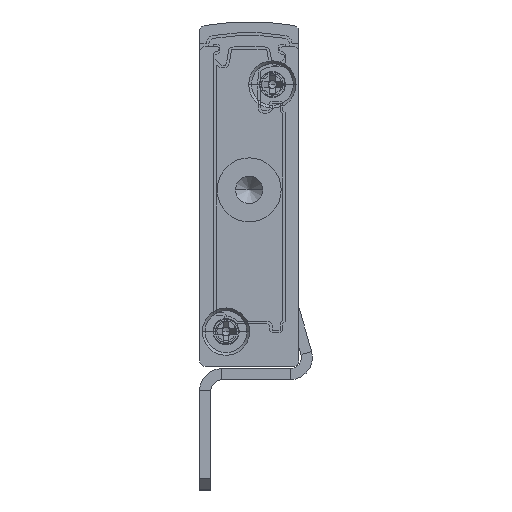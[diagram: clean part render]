
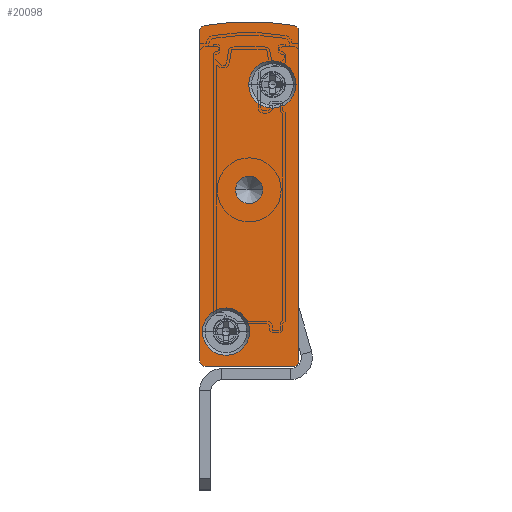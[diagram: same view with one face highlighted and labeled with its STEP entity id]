
A CAD part, front view. The second image highlights one B-rep face of the part: STEP entity #20098.
In plain terms, the highlighted planar face has unit normal (0, -1, 0).
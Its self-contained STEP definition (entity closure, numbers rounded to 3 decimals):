
#639 = EDGE_LOOP ( 'NONE', ( #29765, #10746 ) ) ;
#958 = CARTESIAN_POINT ( 'NONE',  ( -4.45, -2.5, 3.15 ) ) ;
#1630 = VERTEX_POINT ( 'NONE', #7534 ) ;
#1741 = ORIENTED_EDGE ( 'NONE', *, *, #18621, .T. ) ;
#1769 = CARTESIAN_POINT ( 'NONE',  ( -3.25, -2.5, 16. ) ) ;
#2037 = EDGE_CURVE ( 'NONE', #1630, #14886, #32875, .T. ) ;
#2167 = AXIS2_PLACEMENT_3D ( 'NONE', #23534, #15124, #3413 ) ;
#2371 = CARTESIAN_POINT ( 'NONE',  ( -0.5, -2.5, 0. ) ) ;
#2555 = VERTEX_POINT ( 'NONE', #1769 ) ;
#2700 = DIRECTION ( 'NONE',  ( -1., 0., 0. ) ) ;
#2747 = ORIENTED_EDGE ( 'NONE', *, *, #37293, .F. ) ;
#2854 = AXIS2_PLACEMENT_3D ( 'NONE', #11001, #28860, #34309 ) ;
#2917 = AXIS2_PLACEMENT_3D ( 'NONE', #35071, #17706, #3196 ) ;
#3196 = DIRECTION ( 'NONE',  ( -1., 0., 0. ) ) ;
#3413 = DIRECTION ( 'NONE',  ( 1., 0., 0. ) ) ;
#3925 = VERTEX_POINT ( 'NONE', #22613 ) ;
#4509 = ORIENTED_EDGE ( 'NONE', *, *, #32287, .F. ) ;
#4982 = AXIS2_PLACEMENT_3D ( 'NONE', #5334, #28464, #25646 ) ;
#5334 = CARTESIAN_POINT ( 'NONE',  ( -6.6, -2.5, 3.15 ) ) ;
#5861 = ORIENTED_EDGE ( 'NONE', *, *, #32386, .F. ) ;
#5949 = CARTESIAN_POINT ( 'NONE',  ( -8.75, -2.5, 3.15 ) ) ;
#6857 = CARTESIAN_POINT ( 'NONE',  ( -4.5, -2.5, 16. ) ) ;
#7534 = CARTESIAN_POINT ( 'NONE',  ( -8.592, -2.5, 30.893 ) ) ;
#8174 = CARTESIAN_POINT ( 'NONE',  ( 0., -2.5, 30.402 ) ) ;
#8202 = DIRECTION ( 'NONE',  ( 0., 0., -1. ) ) ;
#8359 = CIRCLE ( 'NONE', #16568, 1.25 ) ;
#8449 = DIRECTION ( 'NONE',  ( -1., 0., 0. ) ) ;
#8842 = DIRECTION ( 'NONE',  ( 1., 0., 0. ) ) ;
#10280 = VERTEX_POINT ( 'NONE', #5949 ) ;
#10432 = VECTOR ( 'NONE', #28762, 1000. ) ;
#10746 = ORIENTED_EDGE ( 'NONE', *, *, #37515, .F. ) ;
#10749 = FACE_BOUND ( 'NONE', #30390, .T. ) ;
#11001 = CARTESIAN_POINT ( 'NONE',  ( -0.5, -2.5, 0.5 ) ) ;
#11389 = VECTOR ( 'NONE', #2700, 1000. ) ;
#11500 = AXIS2_PLACEMENT_3D ( 'NONE', #18006, #29554, #8842 ) ;
#11725 = CARTESIAN_POINT ( 'NONE',  ( -8.5, -2.5, 30.402 ) ) ;
#11759 = CIRCLE ( 'NONE', #36824, 2.15 ) ;
#11792 = CARTESIAN_POINT ( 'NONE',  ( -9., -2.5, 0.5 ) ) ;
#12533 = ORIENTED_EDGE ( 'NONE', *, *, #2037, .F. ) ;
#12575 = CARTESIAN_POINT ( 'NONE',  ( -8.5, -2.5, 0. ) ) ;
#13564 = FACE_BOUND ( 'NONE', #639, .T. ) ;
#13773 = ORIENTED_EDGE ( 'NONE', *, *, #27392, .F. ) ;
#13887 = EDGE_CURVE ( 'NONE', #15183, #28253, #35356, .T. ) ;
#13989 = DIRECTION ( 'NONE',  ( -1., 0., 0. ) ) ;
#14701 = VECTOR ( 'NONE', #8202, 1000. ) ;
#14723 = ORIENTED_EDGE ( 'NONE', *, *, #13887, .F. ) ;
#14886 = VERTEX_POINT ( 'NONE', #19676 ) ;
#15124 = DIRECTION ( 'NONE',  ( 0., -1., 0. ) ) ;
#15183 = VERTEX_POINT ( 'NONE', #12575 ) ;
#15376 = CIRCLE ( 'NONE', #2917, 0.5 ) ;
#15393 = AXIS2_PLACEMENT_3D ( 'NONE', #37472, #34644, #22757 ) ;
#15834 = FACE_BOUND ( 'NONE', #24046, .T. ) ;
#16411 = DIRECTION ( 'NONE',  ( -1., 0., 0. ) ) ;
#16568 = AXIS2_PLACEMENT_3D ( 'NONE', #33809, #33440, #36626 ) ;
#16705 = CIRCLE ( 'NONE', #32255, 1.25 ) ;
#16984 = CARTESIAN_POINT ( 'NONE',  ( 0., -2.5, 0.5 ) ) ;
#17453 = ORIENTED_EDGE ( 'NONE', *, *, #23141, .F. ) ;
#17706 = DIRECTION ( 'NONE',  ( 0., 1., 0. ) ) ;
#18006 = CARTESIAN_POINT ( 'NONE',  ( -6.6, -2.5, 3.15 ) ) ;
#18621 = EDGE_CURVE ( 'NONE', #25550, #2555, #8359, .T. ) ;
#18711 = LINE ( 'NONE', #19889, #11389 ) ;
#18798 = DIRECTION ( 'NONE',  ( 0., 1., 0. ) ) ;
#18916 = AXIS2_PLACEMENT_3D ( 'NONE', #28398, #36582, #13989 ) ;
#19458 = VERTEX_POINT ( 'NONE', #16984 ) ;
#19676 = CARTESIAN_POINT ( 'NONE',  ( -0.408, -2.5, 30.893 ) ) ;
#19889 = CARTESIAN_POINT ( 'NONE',  ( -8.5, -2.5, 0. ) ) ;
#20098 = ADVANCED_FACE ( 'NONE', ( #13564, #10749, #20808, #15834 ), #23800, .F. ) ;
#20808 = FACE_OUTER_BOUND ( 'NONE', #27140, .T. ) ;
#21451 = CIRCLE ( 'NONE', #4982, 2.15 ) ;
#21969 = AXIS2_PLACEMENT_3D ( 'NONE', #36932, #24996, #16411 ) ;
#22306 = VERTEX_POINT ( 'NONE', #8174 ) ;
#22429 = LINE ( 'NONE', #25983, #14701 ) ;
#22613 = CARTESIAN_POINT ( 'NONE',  ( -9., -2.5, 30.402 ) ) ;
#22757 = DIRECTION ( 'NONE',  ( -1., 0., 0. ) ) ;
#23037 = VERTEX_POINT ( 'NONE', #31063 ) ;
#23141 = EDGE_CURVE ( 'NONE', #3925, #1630, #24748, .T. ) ;
#23235 = LINE ( 'NONE', #31915, #10432 ) ;
#23333 = DIRECTION ( 'NONE',  ( 0., 1., 0. ) ) ;
#23534 = CARTESIAN_POINT ( 'NONE',  ( -2.4, -2.5, 25.55 ) ) ;
#23800 = PLANE ( 'NONE',  #18916 ) ;
#24046 = EDGE_LOOP ( 'NONE', ( #1741, #26411 ) ) ;
#24485 = VERTEX_POINT ( 'NONE', #29334 ) ;
#24748 = CIRCLE ( 'NONE', #33462, 0.5 ) ;
#24996 = DIRECTION ( 'NONE',  ( 0., 1., 0. ) ) ;
#25550 = VERTEX_POINT ( 'NONE', #28074 ) ;
#25646 = DIRECTION ( 'NONE',  ( 1., 0., 0. ) ) ;
#25983 = CARTESIAN_POINT ( 'NONE',  ( 0., -2.5, 30.402 ) ) ;
#26411 = ORIENTED_EDGE ( 'NONE', *, *, #28438, .T. ) ;
#27140 = EDGE_LOOP ( 'NONE', ( #17453, #2747, #14723, #29593, #34443, #4509, #36520, #12533 ) ) ;
#27255 = CIRCLE ( 'NONE', #2854, 0.5 ) ;
#27392 = EDGE_CURVE ( 'NONE', #10280, #35204, #21451, .T. ) ;
#28074 = CARTESIAN_POINT ( 'NONE',  ( -5.75, -2.5, 16. ) ) ;
#28253 = VERTEX_POINT ( 'NONE', #11792 ) ;
#28398 = CARTESIAN_POINT ( 'NONE',  ( -8.5, -2.5, 30.402 ) ) ;
#28438 = EDGE_CURVE ( 'NONE', #2555, #25550, #16705, .T. ) ;
#28464 = DIRECTION ( 'NONE',  ( 0., -1., 0. ) ) ;
#28762 = DIRECTION ( 'NONE',  ( 0., 0., 1. ) ) ;
#28860 = DIRECTION ( 'NONE',  ( 0., 1., 0. ) ) ;
#29334 = CARTESIAN_POINT ( 'NONE',  ( -0.25, -2.5, 25.55 ) ) ;
#29554 = DIRECTION ( 'NONE',  ( 0., -1., 0. ) ) ;
#29593 = ORIENTED_EDGE ( 'NONE', *, *, #33617, .F. ) ;
#29765 = ORIENTED_EDGE ( 'NONE', *, *, #34402, .F. ) ;
#30020 = CARTESIAN_POINT ( 'NONE',  ( -2.4, -2.5, 25.55 ) ) ;
#30390 = EDGE_LOOP ( 'NONE', ( #5861, #13773 ) ) ;
#31063 = CARTESIAN_POINT ( 'NONE',  ( -4.55, -2.5, 25.55 ) ) ;
#31915 = CARTESIAN_POINT ( 'NONE',  ( -9., -2.5, 30.402 ) ) ;
#32255 = AXIS2_PLACEMENT_3D ( 'NONE', #6857, #18798, #33029 ) ;
#32287 = EDGE_CURVE ( 'NONE', #22306, #19458, #22429, .T. ) ;
#32386 = EDGE_CURVE ( 'NONE', #35204, #10280, #37389, .T. ) ;
#32663 = CIRCLE ( 'NONE', #2167, 2.15 ) ;
#32875 = CIRCLE ( 'NONE', #15393, 23.658 ) ;
#33029 = DIRECTION ( 'NONE',  ( -1., 0., 0. ) ) ;
#33272 = DIRECTION ( 'NONE',  ( 1., 0., 0. ) ) ;
#33440 = DIRECTION ( 'NONE',  ( 0., 1., 0. ) ) ;
#33462 = AXIS2_PLACEMENT_3D ( 'NONE', #11725, #23333, #8449 ) ;
#33617 = EDGE_CURVE ( 'NONE', #34938, #15183, #18711, .T. ) ;
#33809 = CARTESIAN_POINT ( 'NONE',  ( -4.5, -2.5, 16. ) ) ;
#33997 = EDGE_CURVE ( 'NONE', #19458, #34938, #27255, .T. ) ;
#34309 = DIRECTION ( 'NONE',  ( -1., 0., 0. ) ) ;
#34402 = EDGE_CURVE ( 'NONE', #24485, #23037, #32663, .T. ) ;
#34443 = ORIENTED_EDGE ( 'NONE', *, *, #33997, .F. ) ;
#34644 = DIRECTION ( 'NONE',  ( 0., 1., 0. ) ) ;
#34938 = VERTEX_POINT ( 'NONE', #2371 ) ;
#35071 = CARTESIAN_POINT ( 'NONE',  ( -0.5, -2.5, 30.402 ) ) ;
#35204 = VERTEX_POINT ( 'NONE', #958 ) ;
#35356 = CIRCLE ( 'NONE', #21969, 0.5 ) ;
#35667 = EDGE_CURVE ( 'NONE', #14886, #22306, #15376, .T. ) ;
#35963 = DIRECTION ( 'NONE',  ( 0., -1., 0. ) ) ;
#36520 = ORIENTED_EDGE ( 'NONE', *, *, #35667, .F. ) ;
#36582 = DIRECTION ( 'NONE',  ( 0., 1., 0. ) ) ;
#36626 = DIRECTION ( 'NONE',  ( -1., 0., 0. ) ) ;
#36824 = AXIS2_PLACEMENT_3D ( 'NONE', #30020, #35963, #33272 ) ;
#36932 = CARTESIAN_POINT ( 'NONE',  ( -8.5, -2.5, 0.5 ) ) ;
#37293 = EDGE_CURVE ( 'NONE', #28253, #3925, #23235, .T. ) ;
#37389 = CIRCLE ( 'NONE', #11500, 2.15 ) ;
#37472 = CARTESIAN_POINT ( 'NONE',  ( -4.5, -2.5, 7.592 ) ) ;
#37515 = EDGE_CURVE ( 'NONE', #23037, #24485, #11759, .T. ) ;
